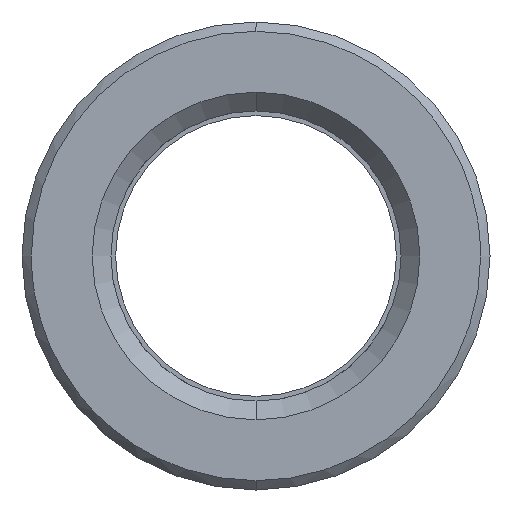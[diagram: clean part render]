
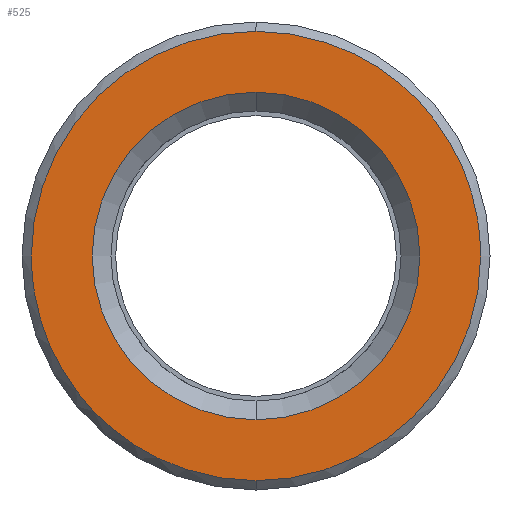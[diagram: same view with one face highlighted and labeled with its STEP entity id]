
A CAD part, left-side view. The second image highlights one B-rep face of the part: STEP entity #525.
In plain terms, the highlighted planar face has unit normal (-1, 0, 0).
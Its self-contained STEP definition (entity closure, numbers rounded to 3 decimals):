
#305=CARTESIAN_POINT('Axis2P3D Location',(0.,0.,0.)) ;
#309=CARTESIAN_POINT('Vertex',(0.,8.75,0.)) ;
#311=CARTESIAN_POINT('Vertex',(0.,0.,8.75)) ;
#314=CARTESIAN_POINT('Axis2P3D Location',(0.,0.,0.)) ;
#318=CARTESIAN_POINT('Vertex',(0.,0.,-8.75)) ;
#345=CARTESIAN_POINT('Axis2P3D Location',(0.,0.,0.)) ;
#349=CARTESIAN_POINT('Vertex',(0.,-8.75,0.)) ;
#352=CARTESIAN_POINT('Axis2P3D Location',(0.,0.,0.)) ;
#432=CARTESIAN_POINT('Axis2P3D Location',(0.,12.,0.)) ;
#438=CARTESIAN_POINT('Control Point',(0.,0.,-12.)) ;
#439=CARTESIAN_POINT('Control Point',(0.,0.982,-12.)) ;
#440=CARTESIAN_POINT('Control Point',(0.,1.964,-11.9)) ;
#441=CARTESIAN_POINT('Control Point',(0.,2.932,-11.699)) ;
#442=CARTESIAN_POINT('Control Point',(0.,5.011,-11.039)) ;
#443=CARTESIAN_POINT('Control Point',(0.,6.895,-9.93)) ;
#444=CARTESIAN_POINT('Control Point',(0.,7.845,-9.197)) ;
#445=CARTESIAN_POINT('Control Point',(0.,9.546,-7.512)) ;
#446=CARTESIAN_POINT('Control Point',(0.,10.784,-5.463)) ;
#447=CARTESIAN_POINT('Control Point',(0.,11.273,-4.367)) ;
#448=CARTESIAN_POINT('Control Point',(0.,11.741,-2.824)) ;
#449=CARTESIAN_POINT('Control Point',(0.,11.947,-1.236)) ;
#450=CARTESIAN_POINT('Control Point',(0.,11.982,-0.824)) ;
#451=CARTESIAN_POINT('Control Point',(0.,12.,-0.412)) ;
#452=CARTESIAN_POINT('Control Point',(0.,12.,0.)) ;
#453=CARTESIAN_POINT('Vertex',(0.,0.,-12.)) ;
#455=CARTESIAN_POINT('Vertex',(0.,12.,0.)) ;
#459=CARTESIAN_POINT('Control Point',(0.,-12.,0.)) ;
#460=CARTESIAN_POINT('Control Point',(0.,-12.,-1.188)) ;
#461=CARTESIAN_POINT('Control Point',(0.,-11.853,-2.376)) ;
#462=CARTESIAN_POINT('Control Point',(0.,-11.559,-3.54)) ;
#463=CARTESIAN_POINT('Control Point',(0.,-10.689,-5.77)) ;
#464=CARTESIAN_POINT('Control Point',(0.,-9.302,-7.721)) ;
#465=CARTESIAN_POINT('Control Point',(0.,-8.49,-8.605)) ;
#466=CARTESIAN_POINT('Control Point',(0.,-6.665,-10.155)) ;
#467=CARTESIAN_POINT('Control Point',(0.,-4.518,-11.213)) ;
#468=CARTESIAN_POINT('Control Point',(0.,-3.384,-11.606)) ;
#469=CARTESIAN_POINT('Control Point',(0.,-2.01,-11.897)) ;
#470=CARTESIAN_POINT('Control Point',(0.,-0.618,-11.987)) ;
#471=CARTESIAN_POINT('Control Point',(0.,-0.412,-11.996)) ;
#472=CARTESIAN_POINT('Control Point',(0.,-0.206,-12.)) ;
#473=CARTESIAN_POINT('Control Point',(0.,0.,-12.)) ;
#474=CARTESIAN_POINT('Vertex',(0.,-12.,0.)) ;
#478=CARTESIAN_POINT('Control Point',(0.,0.,12.)) ;
#479=CARTESIAN_POINT('Control Point',(0.,-0.982,12.)) ;
#480=CARTESIAN_POINT('Control Point',(0.,-1.964,11.9)) ;
#481=CARTESIAN_POINT('Control Point',(0.,-2.932,11.699)) ;
#482=CARTESIAN_POINT('Control Point',(0.,-5.011,11.039)) ;
#483=CARTESIAN_POINT('Control Point',(0.,-6.895,9.93)) ;
#484=CARTESIAN_POINT('Control Point',(0.,-7.845,9.197)) ;
#485=CARTESIAN_POINT('Control Point',(0.,-9.546,7.512)) ;
#486=CARTESIAN_POINT('Control Point',(0.,-10.784,5.463)) ;
#487=CARTESIAN_POINT('Control Point',(0.,-11.273,4.367)) ;
#488=CARTESIAN_POINT('Control Point',(0.,-11.741,2.824)) ;
#489=CARTESIAN_POINT('Control Point',(0.,-11.947,1.236)) ;
#490=CARTESIAN_POINT('Control Point',(0.,-11.982,0.824)) ;
#491=CARTESIAN_POINT('Control Point',(0.,-12.,0.412)) ;
#492=CARTESIAN_POINT('Control Point',(0.,-12.,0.)) ;
#493=CARTESIAN_POINT('Vertex',(0.,0.,12.)) ;
#497=CARTESIAN_POINT('Control Point',(0.,12.,0.)) ;
#498=CARTESIAN_POINT('Control Point',(0.,12.,1.188)) ;
#499=CARTESIAN_POINT('Control Point',(0.,11.853,2.376)) ;
#500=CARTESIAN_POINT('Control Point',(0.,11.559,3.54)) ;
#501=CARTESIAN_POINT('Control Point',(0.,10.689,5.77)) ;
#502=CARTESIAN_POINT('Control Point',(0.,9.302,7.721)) ;
#503=CARTESIAN_POINT('Control Point',(0.,8.49,8.605)) ;
#504=CARTESIAN_POINT('Control Point',(0.,6.665,10.155)) ;
#505=CARTESIAN_POINT('Control Point',(0.,4.518,11.213)) ;
#506=CARTESIAN_POINT('Control Point',(0.,3.384,11.606)) ;
#507=CARTESIAN_POINT('Control Point',(0.,2.01,11.897)) ;
#508=CARTESIAN_POINT('Control Point',(0.,0.618,11.987)) ;
#509=CARTESIAN_POINT('Control Point',(0.,0.412,11.996)) ;
#510=CARTESIAN_POINT('Control Point',(0.,0.206,12.)) ;
#511=CARTESIAN_POINT('Control Point',(0.,0.,12.)) ;
#306=DIRECTION('Axis2P3D Direction',(-1.,0.,0.)) ;
#315=DIRECTION('Axis2P3D Direction',(-1.,0.,0.)) ;
#346=DIRECTION('Axis2P3D Direction',(-1.,0.,0.)) ;
#353=DIRECTION('Axis2P3D Direction',(-1.,0.,0.)) ;
#433=DIRECTION('Axis2P3D Direction',(-1.,0.,0.)) ;
#434=DIRECTION('Axis2P3D XDirection',(0.,0.,1.)) ;
#307=AXIS2_PLACEMENT_3D('Circle Axis2P3D',#305,#306,$) ;
#316=AXIS2_PLACEMENT_3D('Circle Axis2P3D',#314,#315,$) ;
#347=AXIS2_PLACEMENT_3D('Circle Axis2P3D',#345,#346,$) ;
#354=AXIS2_PLACEMENT_3D('Circle Axis2P3D',#352,#353,$) ;
#435=AXIS2_PLACEMENT_3D('Plane Axis2P3D',#432,#433,#434) ;
#514=ORIENTED_EDGE('',*,*,#457,.F.) ;
#515=ORIENTED_EDGE('',*,*,#476,.F.) ;
#516=ORIENTED_EDGE('',*,*,#495,.F.) ;
#517=ORIENTED_EDGE('',*,*,#512,.F.) ;
#520=ORIENTED_EDGE('',*,*,#313,.T.) ;
#521=ORIENTED_EDGE('',*,*,#356,.T.) ;
#522=ORIENTED_EDGE('',*,*,#351,.T.) ;
#523=ORIENTED_EDGE('',*,*,#320,.T.) ;
#524=FACE_BOUND('',#519,.T.) ;
#525=ADVANCED_FACE('553-15X66',(#518,#524),#436,.T.) ;
#437=B_SPLINE_CURVE_WITH_KNOTS('',5,(#438,#439,#440,#441,#442,#443,#444,#445,#446,#447,#448,#449,#450,#451,#452),.UNSPECIFIED.,.F.,.U.,(6,3,3,3,6),(26.657,33.6,42.,50.399,53.312),.UNSPECIFIED.) ;
#458=B_SPLINE_CURVE_WITH_KNOTS('',5,(#459,#460,#461,#462,#463,#464,#465,#466,#467,#468,#469,#470,#471,#472,#473),.UNSPECIFIED.,.F.,.U.,(6,3,3,3,6),(0.,8.4,16.8,25.2,26.657),.UNSPECIFIED.) ;
#477=B_SPLINE_CURVE_WITH_KNOTS('',5,(#478,#479,#480,#481,#482,#483,#484,#485,#486,#487,#488,#489,#490,#491,#492),.UNSPECIFIED.,.F.,.U.,(6,3,3,3,6),(26.657,33.6,42.,50.399,53.312),.UNSPECIFIED.) ;
#496=B_SPLINE_CURVE_WITH_KNOTS('',5,(#497,#498,#499,#500,#501,#502,#503,#504,#505,#506,#507,#508,#509,#510,#511),.UNSPECIFIED.,.F.,.U.,(6,3,3,3,6),(0.,8.4,16.8,25.2,26.657),.UNSPECIFIED.) ;
#308=CIRCLE('generated circle',#307,8.75) ;
#317=CIRCLE('generated circle',#316,8.75) ;
#348=CIRCLE('generated circle',#347,8.75) ;
#355=CIRCLE('generated circle',#354,8.75) ;
#313=EDGE_CURVE('',#310,#312,#308,.F.) ;
#320=EDGE_CURVE('',#319,#310,#317,.F.) ;
#351=EDGE_CURVE('',#350,#319,#348,.F.) ;
#356=EDGE_CURVE('',#312,#350,#355,.F.) ;
#457=EDGE_CURVE('',#454,#456,#437,.T.) ;
#476=EDGE_CURVE('',#475,#454,#458,.T.) ;
#495=EDGE_CURVE('',#494,#475,#477,.T.) ;
#512=EDGE_CURVE('',#456,#494,#496,.T.) ;
#513=EDGE_LOOP('',(#514,#515,#516,#517)) ;
#519=EDGE_LOOP('',(#520,#521,#522,#523)) ;
#518=FACE_OUTER_BOUND('',#513,.T.) ;
#436=PLANE('Plane',#435) ;
#310=VERTEX_POINT('',#309) ;
#312=VERTEX_POINT('',#311) ;
#319=VERTEX_POINT('',#318) ;
#350=VERTEX_POINT('',#349) ;
#454=VERTEX_POINT('',#453) ;
#456=VERTEX_POINT('',#455) ;
#475=VERTEX_POINT('',#474) ;
#494=VERTEX_POINT('',#493) ;
